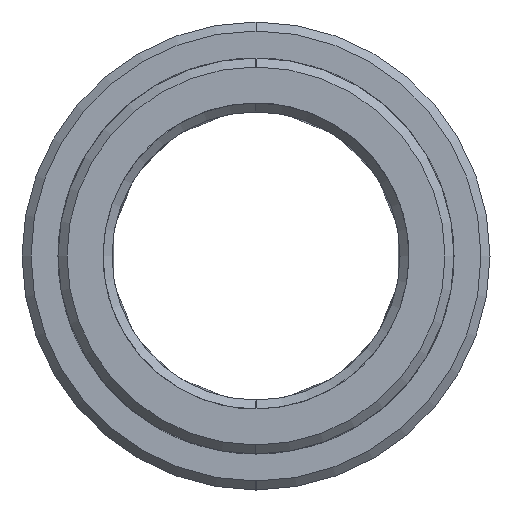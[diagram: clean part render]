
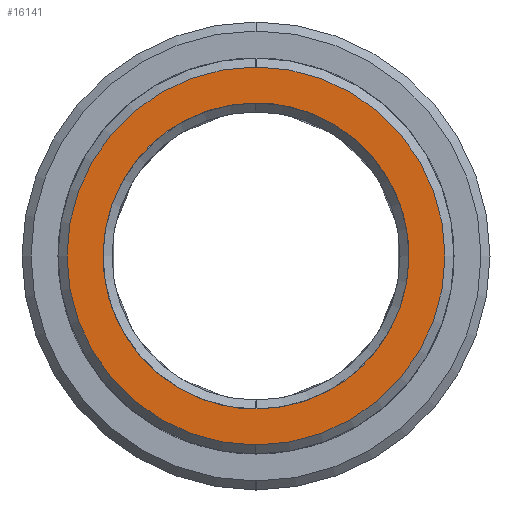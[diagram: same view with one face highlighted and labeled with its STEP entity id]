
A CAD part, left-side view. The second image highlights one B-rep face of the part: STEP entity #16141.
In plain terms, the highlighted planar face has unit normal (1, 0, 0).
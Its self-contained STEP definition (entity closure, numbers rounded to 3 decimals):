
#16058=CARTESIAN_POINT('Axis2P3D Location',(-12.,0.,0.)) ;
#16063=CARTESIAN_POINT('Axis2P3D Location',(-12.,0.,0.)) ;
#16067=CARTESIAN_POINT('Vertex',(-12.,0.,10.5)) ;
#16069=CARTESIAN_POINT('Vertex',(-12.,0.,-10.5)) ;
#16072=CARTESIAN_POINT('Axis2P3D Location',(-12.,0.,0.)) ;
#16082=CARTESIAN_POINT('Control Point',(-12.,0.,-8.5)) ;
#16083=CARTESIAN_POINT('Control Point',(-12.,-0.857,-8.5)) ;
#16084=CARTESIAN_POINT('Control Point',(-12.,-1.714,-8.392)) ;
#16085=CARTESIAN_POINT('Control Point',(-12.,-2.553,-8.176)) ;
#16086=CARTESIAN_POINT('Control Point',(-12.,-4.158,-7.537)) ;
#16087=CARTESIAN_POINT('Control Point',(-12.,-5.554,-6.52)) ;
#16088=CARTESIAN_POINT('Control Point',(-12.,-6.184,-5.926)) ;
#16089=CARTESIAN_POINT('Control Point',(-12.,-7.281,-4.591)) ;
#16090=CARTESIAN_POINT('Control Point',(-12.,-8.013,-3.026)) ;
#16091=CARTESIAN_POINT('Control Point',(-12.,-8.277,-2.202)) ;
#16092=CARTESIAN_POINT('Control Point',(-12.,-8.593,-0.503)) ;
#16093=CARTESIAN_POINT('Control Point',(-12.,-8.478,1.22)) ;
#16094=CARTESIAN_POINT('Control Point',(-12.,-8.311,2.07)) ;
#16095=CARTESIAN_POINT('Control Point',(-12.,-7.767,3.71)) ;
#16096=CARTESIAN_POINT('Control Point',(-12.,-6.834,5.164)) ;
#16097=CARTESIAN_POINT('Control Point',(-12.,-6.277,5.827)) ;
#16098=CARTESIAN_POINT('Control Point',(-12.,-5.009,7.)) ;
#16099=CARTESIAN_POINT('Control Point',(-12.,-3.49,7.822)) ;
#16100=CARTESIAN_POINT('Control Point',(-12.,-2.682,8.135)) ;
#16101=CARTESIAN_POINT('Control Point',(-12.,-1.649,8.39)) ;
#16102=CARTESIAN_POINT('Control Point',(-12.,-0.597,8.483)) ;
#16103=CARTESIAN_POINT('Control Point',(-12.,-0.398,8.494)) ;
#16104=CARTESIAN_POINT('Control Point',(-12.,-0.199,8.5)) ;
#16105=CARTESIAN_POINT('Control Point',(-12.,0.,8.5)) ;
#16106=CARTESIAN_POINT('Vertex',(-12.,0.,-8.5)) ;
#16108=CARTESIAN_POINT('Vertex',(-12.,0.,8.5)) ;
#16112=CARTESIAN_POINT('Control Point',(-12.,0.,8.5)) ;
#16113=CARTESIAN_POINT('Control Point',(-12.,0.857,8.5)) ;
#16114=CARTESIAN_POINT('Control Point',(-12.,1.714,8.392)) ;
#16115=CARTESIAN_POINT('Control Point',(-12.,2.553,8.176)) ;
#16116=CARTESIAN_POINT('Control Point',(-12.,4.158,7.537)) ;
#16117=CARTESIAN_POINT('Control Point',(-12.,5.554,6.52)) ;
#16118=CARTESIAN_POINT('Control Point',(-12.,6.184,5.926)) ;
#16119=CARTESIAN_POINT('Control Point',(-12.,7.281,4.591)) ;
#16120=CARTESIAN_POINT('Control Point',(-12.,8.013,3.026)) ;
#16121=CARTESIAN_POINT('Control Point',(-12.,8.277,2.202)) ;
#16122=CARTESIAN_POINT('Control Point',(-12.,8.593,0.503)) ;
#16123=CARTESIAN_POINT('Control Point',(-12.,8.478,-1.22)) ;
#16124=CARTESIAN_POINT('Control Point',(-12.,8.311,-2.07)) ;
#16125=CARTESIAN_POINT('Control Point',(-12.,7.767,-3.71)) ;
#16126=CARTESIAN_POINT('Control Point',(-12.,6.834,-5.164)) ;
#16127=CARTESIAN_POINT('Control Point',(-12.,6.277,-5.827)) ;
#16128=CARTESIAN_POINT('Control Point',(-12.,5.009,-7.)) ;
#16129=CARTESIAN_POINT('Control Point',(-12.,3.49,-7.822)) ;
#16130=CARTESIAN_POINT('Control Point',(-12.,2.682,-8.135)) ;
#16131=CARTESIAN_POINT('Control Point',(-12.,1.649,-8.39)) ;
#16132=CARTESIAN_POINT('Control Point',(-12.,0.597,-8.483)) ;
#16133=CARTESIAN_POINT('Control Point',(-12.,0.398,-8.494)) ;
#16134=CARTESIAN_POINT('Control Point',(-12.,0.199,-8.5)) ;
#16135=CARTESIAN_POINT('Control Point',(-12.,0.,-8.5)) ;
#16059=DIRECTION('Axis2P3D Direction',(1.,0.,0.)) ;
#16060=DIRECTION('Axis2P3D XDirection',(0.,1.,0.)) ;
#16064=DIRECTION('Axis2P3D Direction',(1.,0.,0.)) ;
#16073=DIRECTION('Axis2P3D Direction',(1.,0.,0.)) ;
#16061=AXIS2_PLACEMENT_3D('Plane Axis2P3D',#16058,#16059,#16060) ;
#16065=AXIS2_PLACEMENT_3D('Circle Axis2P3D',#16063,#16064,$) ;
#16074=AXIS2_PLACEMENT_3D('Circle Axis2P3D',#16072,#16073,$) ;
#16078=ORIENTED_EDGE('',*,*,#16071,.T.) ;
#16079=ORIENTED_EDGE('',*,*,#16076,.T.) ;
#16138=ORIENTED_EDGE('',*,*,#16110,.T.) ;
#16139=ORIENTED_EDGE('',*,*,#16136,.T.) ;
#16140=FACE_BOUND('',#16137,.T.) ;
#16141=ADVANCED_FACE('MANIFOLD_SOLID_BREP #9131',(#16080,#16140),#16062,.T.) ;
#16081=B_SPLINE_CURVE_WITH_KNOTS('',5,(#16082,#16083,#16084,#16085,#16086,#16087,#16088,#16089,#16090,#16091,#16092,#16093,#16094,#16095,#16096,#16097,#16098,#16099,#16100,#16101,#16102,#16103,#16104,#16105),.UNSPECIFIED.,.F.,.U.,(6,3,3,3,3,3,3,6),(0.,6.06,12.119,18.179,24.239,30.298,36.358,37.764),.UNSPECIFIED.) ;
#16111=B_SPLINE_CURVE_WITH_KNOTS('',5,(#16112,#16113,#16114,#16115,#16116,#16117,#16118,#16119,#16120,#16121,#16122,#16123,#16124,#16125,#16126,#16127,#16128,#16129,#16130,#16131,#16132,#16133,#16134,#16135),.UNSPECIFIED.,.F.,.U.,(6,3,3,3,3,3,3,6),(0.,6.06,12.119,18.179,24.239,30.298,36.358,37.764),.UNSPECIFIED.) ;
#16066=CIRCLE('generated circle',#16065,10.5) ;
#16075=CIRCLE('generated circle',#16074,10.5) ;
#16071=EDGE_CURVE('',#16068,#16070,#16066,.T.) ;
#16076=EDGE_CURVE('',#16070,#16068,#16075,.T.) ;
#16110=EDGE_CURVE('',#16107,#16109,#16081,.T.) ;
#16136=EDGE_CURVE('',#16109,#16107,#16111,.T.) ;
#16077=EDGE_LOOP('',(#16078,#16079)) ;
#16137=EDGE_LOOP('',(#16138,#16139)) ;
#16080=FACE_OUTER_BOUND('',#16077,.T.) ;
#16062=PLANE('Plane',#16061) ;
#16068=VERTEX_POINT('',#16067) ;
#16070=VERTEX_POINT('',#16069) ;
#16107=VERTEX_POINT('',#16106) ;
#16109=VERTEX_POINT('',#16108) ;
